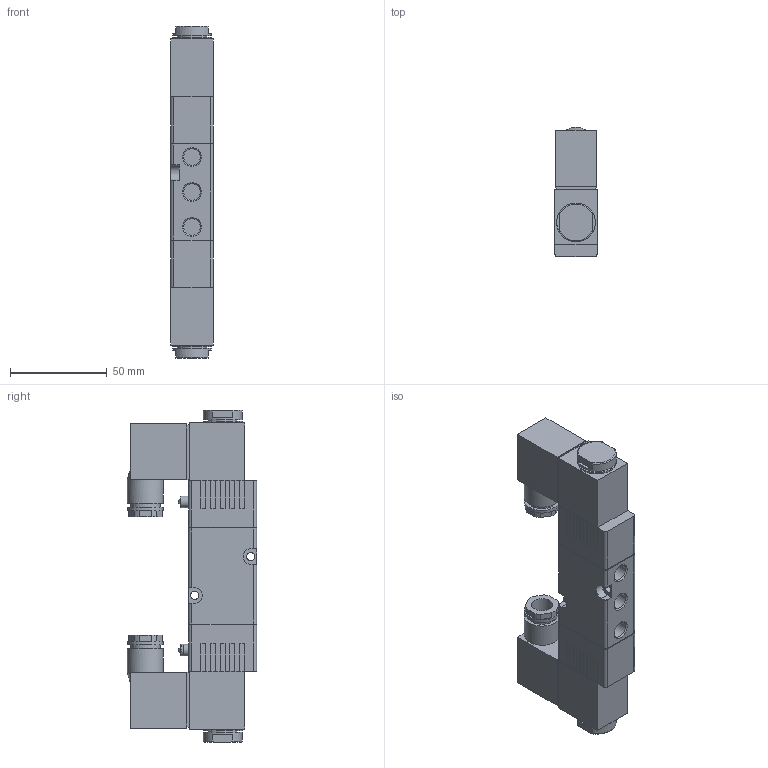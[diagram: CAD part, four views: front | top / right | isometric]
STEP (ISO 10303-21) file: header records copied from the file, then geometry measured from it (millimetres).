
FILE_DESCRIPTION(/* description */ ('STEP AP214'),/* implementation_level */ '2;1');
FILE_NAME(/* name */ '86-MN-4-18-520-M42.stp',/* time_stamp */ '2026-01-15T14:07:32+01:00',/* author */ ('Tschernatsch'),/* organization */ ('CADENAS'),/* preprocessor_version */ 'ST-DEVELOPER v20',/* originating_system */ 'Autodesk Inventor 2024',/* authorisation */ ' ');
FILE_SCHEMA (('AUTOMOTIVE_DESIGN { 1 0 10303 214 3 1 1 }'));
Length unit declared in the file: millimetre
Products named in the file (1): J4V220-06B-DC24V
Bounding box: 22 x 66.7 x 171.4 mm (x, y, z)
Volume: 155118.3 mm3; surface area: 31834.9 mm2
Topology: 1 solids, 1 shells, 354 faces, 872 edges, 543 vertices
Faces by surface type: plane 264, cylinder 61, cone 25, torus 4
Full cylindrical faces by diameter (mm): 4.3 x2, 6 x2, 8.566 x3, 10.8 x2, 14.4 x2, 15.2 x4, 18 x2, 18.4 x2, 18.6 x2, 20 x4
Entity records: 10752 total; most frequent: CARTESIAN_POINT 1875, ORIENTED_EDGE 1744, DIRECTION 1737, EDGE_CURVE 872, LINE 691, VECTOR 691, VERTEX_POINT 543, AXIS2_PLACEMENT_3D 523
